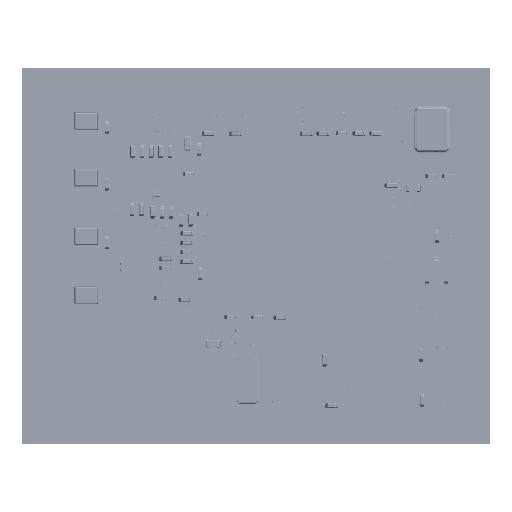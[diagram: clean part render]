
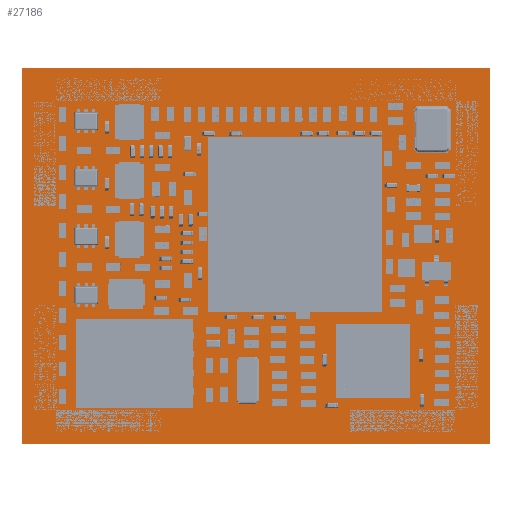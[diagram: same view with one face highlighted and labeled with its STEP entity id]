
A CAD part, top view. The second image highlights one B-rep face of the part: STEP entity #27186.
In plain terms, the highlighted planar face has unit normal (0, 0, 1).
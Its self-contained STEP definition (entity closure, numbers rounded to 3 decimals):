
#20063=FACE_OUTER_BOUND($,#21945,.F.);
#21945=EDGE_LOOP($,(#29118,#29119,#29120,#29121));
#24080=AXIS2_PLACEMENT_3D($,#54504,#48418,$);
#26355=PLANE($,#24080);
#27186=ADVANCED_FACE($,(#20063),#26355,.T.);
#29118=ORIENTED_EDGE($,*,*,#37166,.T.);
#29119=ORIENTED_EDGE($,*,*,#37167,.T.);
#29120=ORIENTED_EDGE($,*,*,#37168,.T.);
#29121=ORIENTED_EDGE($,*,*,#37169,.T.);
#37166=EDGE_CURVE($,#45005,#45006,#43097,.T.);
#37167=EDGE_CURVE($,#45006,#45007,#43098,.T.);
#37168=EDGE_CURVE($,#45007,#45008,#43099,.T.);
#37169=EDGE_CURVE($,#45008,#45005,#43100,.T.);
#41198=VECTOR($,#48450,25.502);
#41199=VECTOR($,#48451,31.695);
#41200=VECTOR($,#48452,25.502);
#41201=VECTOR($,#48453,31.695);
#43097=LINE($,#54503,#41198);
#43098=LINE($,#54504,#41199);
#43099=LINE($,#54505,#41200);
#43100=LINE($,#54506,#41201);
#45005=VERTEX_POINT($,#54503);
#45006=VERTEX_POINT($,#54504);
#45007=VERTEX_POINT($,#54505);
#45008=VERTEX_POINT($,#54506);
#48418=DIRECTION($,(0.,0.,1.));
#48450=DIRECTION($,(0.,-1.,0.));
#48451=DIRECTION($,(-1.,0.,0.));
#48452=DIRECTION($,(0.,1.,0.));
#48453=DIRECTION($,(1.,0.,0.));
#54503=CARTESIAN_POINT('',(31.695,25.502,0.001));
#54504=CARTESIAN_POINT('',(31.695,0.,0.001));
#54505=CARTESIAN_POINT('',(0.,0.,0.001));
#54506=CARTESIAN_POINT('',(0.,25.502,0.001));
